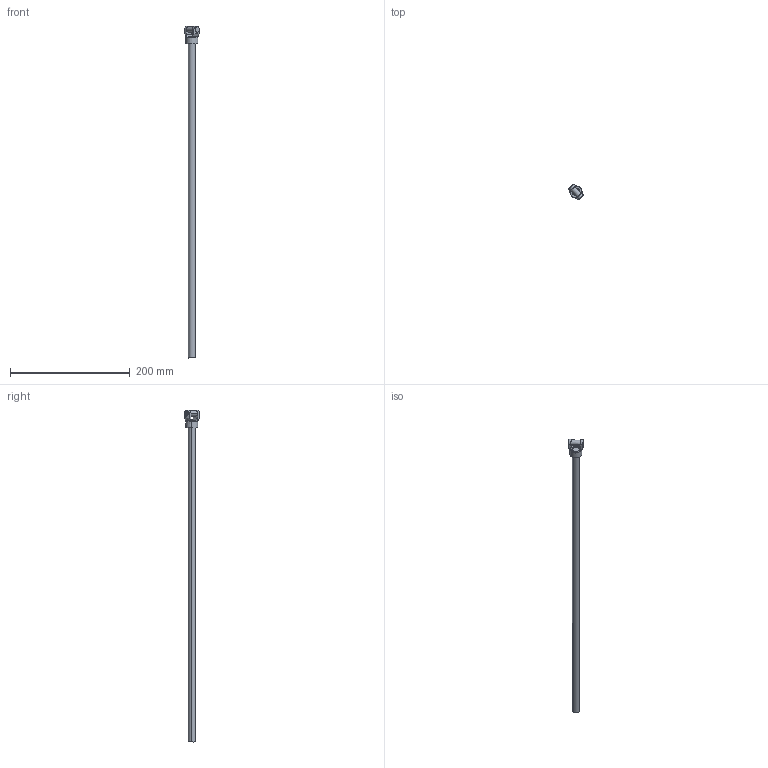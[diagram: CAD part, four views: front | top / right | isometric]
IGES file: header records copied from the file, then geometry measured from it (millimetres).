
Start section: SolidWorks IGES file using analytic representation for surfaces
Global section: file name: C:\Users\SELUHAA\OneDrive - ABB\Work items\609433\IRB360_8-1130-STD-4D_rev03\IRB360_8-1130-STD-4D_rev03_IGS_J\IRB360_8-1130-STD-4D_rev03_RevoluteLinkUpper_CAD.igs; native system: SolidWorks 2022; preprocessor: SolidWorks 2022; author: SELUHAA; date: 250115.102709; units: millimetre
Bounding box: 23.91 x 24.98 x 554.8 mm (x, y, z)
Volume: 62167.6 mm3; surface area: 23286.9 mm2
Topology: 3 solids, 3 shells, 50 faces, 127 edges, 83 vertices
Faces by surface type: revolution 34, plane 14, bspline 2
